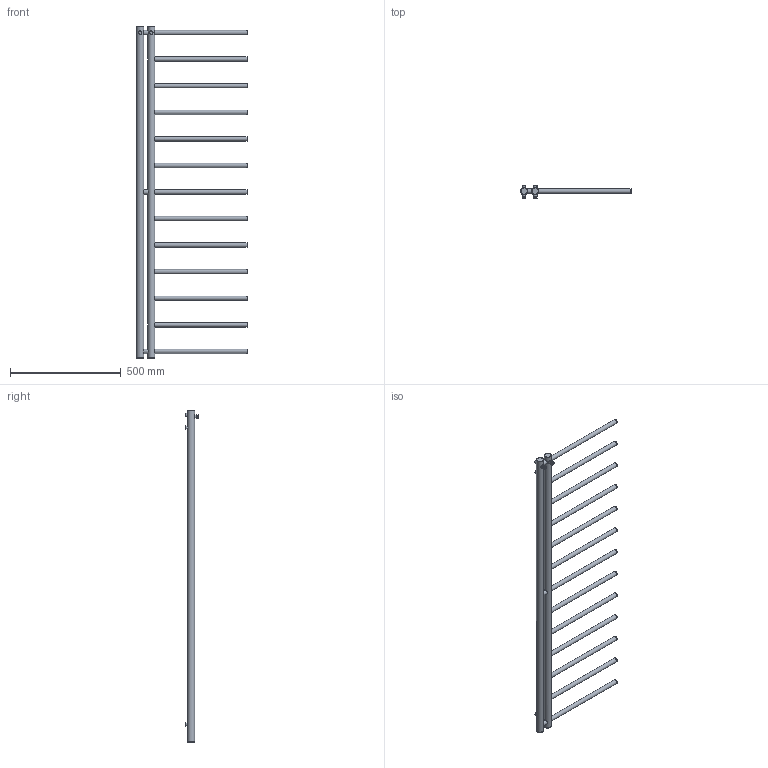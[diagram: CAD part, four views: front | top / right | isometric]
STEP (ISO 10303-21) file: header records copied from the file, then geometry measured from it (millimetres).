
FILE_DESCRIPTION(/* description */ ('Unknown'),/* implementation_level */ '2;1');
FILE_NAME(/* name */ 'AP2',/* time_stamp */ '2022-09-25T19:45:40+02:00',/* author */ ('Unknown'),/* organization */ ('Unknown'),/* preprocessor_version */ 'ST-DEVELOPER v18.102',/* originating_system */ 'Solid Edge',/* authorisation */ 'Unknown');
FILE_SCHEMA (('AUTOMOTIVE_DESIGN {1 0 10303 214 3 1 1}'));
Length unit declared in the file: millimetre
Products named in the file (11): AP2; AP_V-L-TR-32-1,5-1497; AP_V-R-TR-32-1,5-1497; AP_H-TR-20-1,5-30; AP_H-TR-20-1,5-422,5; MD_Víèko slepé pr_20; MD_Víèko slepé pr_32; MD_Víèko se závitem G1-2 pr_32; MD_Háèek pr_32; MD_T靗o odvzdu汄ovac韍o ventilu; MD_Úchyt pr_32
Assembly tree (43 placements, depth 2):
  AP2
    AP_V-L-TR-32-1,5-1497
    AP_V-R-TR-32-1,5-1497
    AP_H-TR-20-1,5-30  x3
    AP_H-TR-20-1,5-422,5  x13
    MD_Víèko slepé pr_20  x14
    MD_Víèko slepé pr_32  x2
    MD_Víèko se závitem G1-2 pr_32  x2
    MD_Háèek pr_32  x2
    MD_T靗o odvzdu汄ovac韍o ventilu
    MD_Úchyt pr_32  x4
Bounding box: 500 x 60 x 1500 mm (x, y, z)
Volume: 936043.6 mm3; surface area: 1240452.9 mm2
Topology: 43 solids, 43 shells, 260 faces, 538 edges, 356 vertices
Faces by surface type: cylinder 119, plane 108, torus 18, cone 15
Full cylindrical faces by diameter (mm): 2 x1, 6.647 x1, 8 x2, 10.106 x4, 16 x10, 16.7 x14, 17 x16, 18.631 x2, 19.2 x14, 20 x35, 22 x2, 28.7 x4, 29 x2, 31.2 x4, 32 x2
Entity records: 3429 total; most frequent: CARTESIAN_POINT 1211, DIRECTION 374, ORIENTED_EDGE 208, EDGE_LOOP 200, FACE_BOUND 200, AXIS2_PLACEMENT_3D 186, EDGE_CURVE 104, VERTEX_POINT 102
